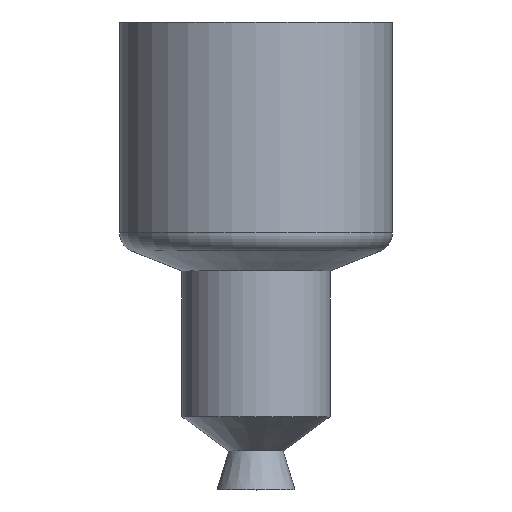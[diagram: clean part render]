
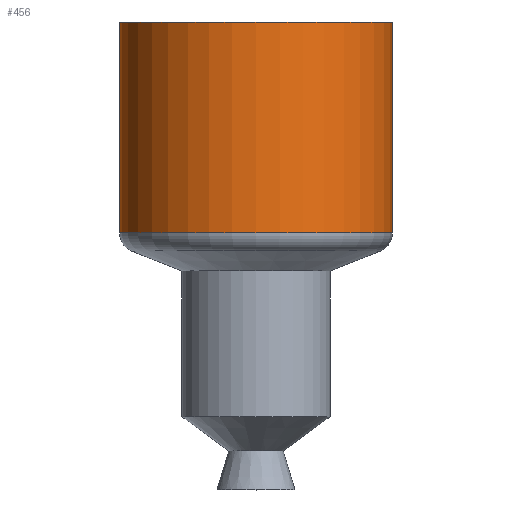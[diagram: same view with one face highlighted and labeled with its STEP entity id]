
A CAD part, top view. The second image highlights one B-rep face of the part: STEP entity #456.
In plain terms, the highlighted cylindrical face has radius 3.5 mm (diameter 7 mm), a partial arc.
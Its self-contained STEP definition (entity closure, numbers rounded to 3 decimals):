
#12 = CARTESIAN_POINT ( 'NONE',  ( 3.5, 3.575, 0. ) ) ;
#23 = DIRECTION ( 'NONE',  ( 0., 1., 0. ) ) ;
#26 = AXIS2_PLACEMENT_3D ( 'NONE', #195, #473, #174 ) ;
#38 = ORIENTED_EDGE ( 'NONE', *, *, #375, .F. ) ;
#48 = ORIENTED_EDGE ( 'NONE', *, *, #309, .T. ) ;
#88 = CARTESIAN_POINT ( 'NONE',  ( 3.5, 6.594, 0. ) ) ;
#98 = DIRECTION ( 'NONE',  ( -1., 0., 0. ) ) ;
#105 = DIRECTION ( 'NONE',  ( 0., 1., 0. ) ) ;
#174 = DIRECTION ( 'NONE',  ( -1., 0., 0. ) ) ;
#194 = DIRECTION ( 'NONE',  ( 0., 1., 0. ) ) ;
#195 = CARTESIAN_POINT ( 'NONE',  ( 0., 6.594, 0. ) ) ;
#203 = ORIENTED_EDGE ( 'NONE', *, *, #282, .T. ) ;
#214 = CARTESIAN_POINT ( 'NONE',  ( 0., 12., 0. ) ) ;
#215 = VECTOR ( 'NONE', #105, 1000. ) ;
#232 = EDGE_LOOP ( 'NONE', ( #203, #48, #410, #38 ) ) ;
#271 = VERTEX_POINT ( 'NONE', #88 ) ;
#282 = EDGE_CURVE ( 'NONE', #379, #271, #334, .T. ) ;
#285 = CYLINDRICAL_SURFACE ( 'NONE', #366, 3.5 ) ;
#309 = EDGE_CURVE ( 'NONE', #271, #568, #469, .T. ) ;
#326 = AXIS2_PLACEMENT_3D ( 'NONE', #214, #194, #519 ) ;
#329 = LINE ( 'NONE', #425, #609 ) ;
#334 = CIRCLE ( 'NONE', #26, 3.5 ) ;
#366 = AXIS2_PLACEMENT_3D ( 'NONE', #595, #23, #98 ) ;
#375 = EDGE_CURVE ( 'NONE', #379, #417, #329, .T. ) ;
#379 = VERTEX_POINT ( 'NONE', #557 ) ;
#410 = ORIENTED_EDGE ( 'NONE', *, *, #587, .F. ) ;
#412 = FACE_OUTER_BOUND ( 'NONE', #232, .T. ) ;
#417 = VERTEX_POINT ( 'NONE', #646 ) ;
#425 = CARTESIAN_POINT ( 'NONE',  ( -3.5, 3.575, 0. ) ) ;
#430 = CIRCLE ( 'NONE', #326, 3.5 ) ;
#456 = ADVANCED_FACE ( 'NONE', ( #412 ), #285, .T. ) ;
#469 = LINE ( 'NONE', #12, #215 ) ;
#473 = DIRECTION ( 'NONE',  ( 0., 1., 0. ) ) ;
#519 = DIRECTION ( 'NONE',  ( -1., 0., 0. ) ) ;
#557 = CARTESIAN_POINT ( 'NONE',  ( -3.5, 6.594, 0. ) ) ;
#568 = VERTEX_POINT ( 'NONE', #596 ) ;
#585 = DIRECTION ( 'NONE',  ( 0., 1., 0. ) ) ;
#587 = EDGE_CURVE ( 'NONE', #417, #568, #430, .T. ) ;
#595 = CARTESIAN_POINT ( 'NONE',  ( 0., 3.575, 0. ) ) ;
#596 = CARTESIAN_POINT ( 'NONE',  ( 3.5, 12., 0. ) ) ;
#609 = VECTOR ( 'NONE', #585, 1000. ) ;
#646 = CARTESIAN_POINT ( 'NONE',  ( -3.5, 12., 0. ) ) ;
